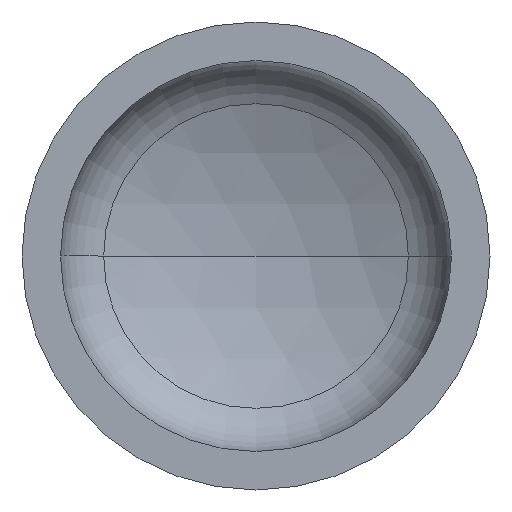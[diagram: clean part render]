
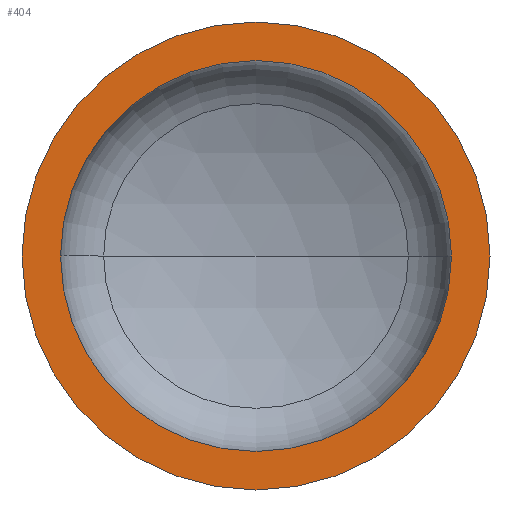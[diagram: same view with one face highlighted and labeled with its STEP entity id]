
A CAD part, front view. The second image highlights one B-rep face of the part: STEP entity #404.
In plain terms, the highlighted planar face has unit normal (0, -1, 0).
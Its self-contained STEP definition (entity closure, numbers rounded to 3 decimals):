
#11 = EDGE_LOOP ( 'NONE', ( #25, #93 ) ) ;
#13 = AXIS2_PLACEMENT_3D ( 'NONE', #171, #172, #201 ) ;
#15 = AXIS2_PLACEMENT_3D ( 'NONE', #137, #145, #206 ) ;
#25 = ORIENTED_EDGE ( 'NONE', *, *, #349, .T. ) ;
#37 = VERTEX_POINT ( 'NONE', #257 ) ;
#60 = EDGE_LOOP ( 'NONE', ( #103, #157 ) ) ;
#66 = AXIS2_PLACEMENT_3D ( 'NONE', #131, #88, #302 ) ;
#71 = VERTEX_POINT ( 'NONE', #243 ) ;
#84 = AXIS2_PLACEMENT_3D ( 'NONE', #352, #351, #350 ) ;
#86 = AXIS2_PLACEMENT_3D ( 'NONE', #199, #202, #348 ) ;
#88 = DIRECTION ( 'NONE',  ( 0., 1., 0. ) ) ;
#93 = ORIENTED_EDGE ( 'NONE', *, *, #109, .T. ) ;
#103 = ORIENTED_EDGE ( 'NONE', *, *, #111, .F. ) ;
#109 = EDGE_CURVE ( 'NONE', #149, #37, #163, .T. ) ;
#111 = EDGE_CURVE ( 'NONE', #378, #71, #234, .T. ) ;
#131 = CARTESIAN_POINT ( 'NONE',  ( -450., 0., 0. ) ) ;
#134 = CARTESIAN_POINT ( 'NONE',  ( 376., 0., 0. ) ) ;
#137 = CARTESIAN_POINT ( 'NONE',  ( 0., 0., 0. ) ) ;
#145 = DIRECTION ( 'NONE',  ( 0., -1., 0. ) ) ;
#149 = VERTEX_POINT ( 'NONE', #208 ) ;
#155 = FACE_BOUND ( 'NONE', #60, .T. ) ;
#157 = ORIENTED_EDGE ( 'NONE', *, *, #407, .F. ) ;
#163 = CIRCLE ( 'NONE', #86, 450. ) ;
#168 = FACE_OUTER_BOUND ( 'NONE', #11, .T. ) ;
#171 = CARTESIAN_POINT ( 'NONE',  ( 0., 0., 0. ) ) ;
#172 = DIRECTION ( 'NONE',  ( 0., -1., 0. ) ) ;
#199 = CARTESIAN_POINT ( 'NONE',  ( 0., 0., 0. ) ) ;
#201 = DIRECTION ( 'NONE',  ( 1., 0., 0. ) ) ;
#202 = DIRECTION ( 'NONE',  ( 0., -1., 0. ) ) ;
#206 = DIRECTION ( 'NONE',  ( 1., 0., 0. ) ) ;
#208 = CARTESIAN_POINT ( 'NONE',  ( -450., 0., 0. ) ) ;
#234 = CIRCLE ( 'NONE', #84, 376. ) ;
#243 = CARTESIAN_POINT ( 'NONE',  ( -376., 0., 0. ) ) ;
#257 = CARTESIAN_POINT ( 'NONE',  ( 450., 0., 0. ) ) ;
#259 = PLANE ( 'NONE',  #66 ) ;
#302 = DIRECTION ( 'NONE',  ( -1., 0., 0. ) ) ;
#348 = DIRECTION ( 'NONE',  ( 1., 0., 0. ) ) ;
#349 = EDGE_CURVE ( 'NONE', #37, #149, #372, .T. ) ;
#350 = DIRECTION ( 'NONE',  ( 1., 0., 0. ) ) ;
#351 = DIRECTION ( 'NONE',  ( 0., -1., 0. ) ) ;
#352 = CARTESIAN_POINT ( 'NONE',  ( 0., 0., 0. ) ) ;
#372 = CIRCLE ( 'NONE', #13, 450. ) ;
#378 = VERTEX_POINT ( 'NONE', #134 ) ;
#404 = ADVANCED_FACE ( 'NONE', ( #155, #168 ), #259, .F. ) ;
#406 = CIRCLE ( 'NONE', #15, 376. ) ;
#407 = EDGE_CURVE ( 'NONE', #71, #378, #406, .T. ) ;
